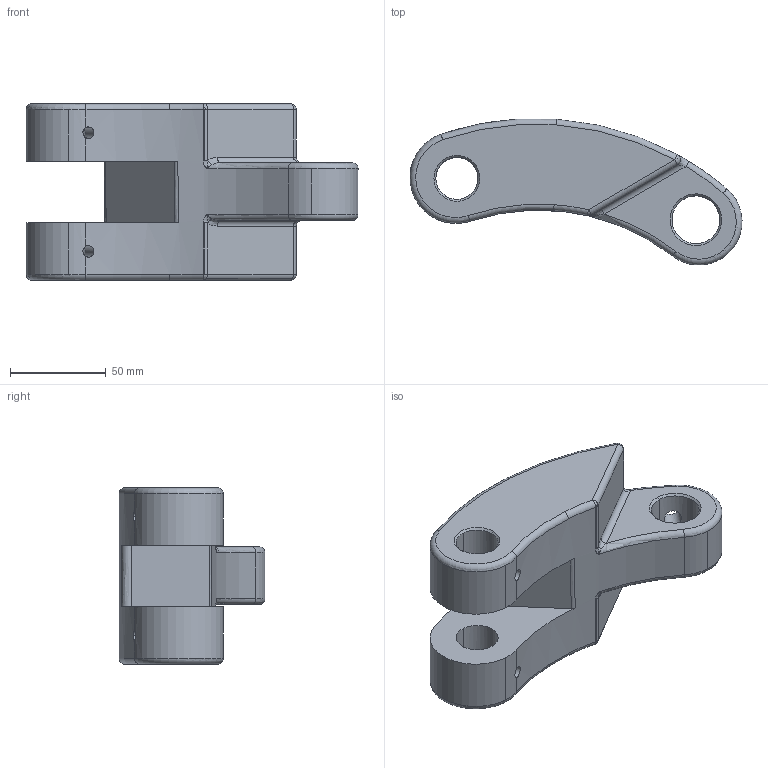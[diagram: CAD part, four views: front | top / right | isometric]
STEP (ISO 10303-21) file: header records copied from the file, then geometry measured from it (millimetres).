
FILE_DESCRIPTION (( 'STEP AP203' ), '1' );
FILE_NAME ('YYDK-500-0030 中间曲柄（500T）.STEP', '2026-03-14T08:00:59', ( 'Windows 用户' ), ( '' ), 'SwSTEP 2.0', 'SolidWorks 2020', '' );
FILE_SCHEMA (( 'CONFIG_CONTROL_DESIGN' ));
Length unit declared in the file: millimetre
Products named in the file (1): YYDK-500-0030 中间曲柄（500T）
Bounding box: 173.38 x 76.06 x 92 mm (x, y, z)
Volume: 463678.1 mm3; surface area: 54319.1 mm2
Topology: 1 solids, 1 shells, 92 faces, 242 edges, 149 vertices
Faces by surface type: cylinder 41, torus 16, plane 12, bspline 10, cone 8, sphere 5
Entity records: 4131 total; most frequent: CARTESIAN_POINT 1815, ORIENTED_EDGE 480, DIRECTION 475, EDGE_CURVE 240, AXIS2_PLACEMENT_3D 205, VERTEX_POINT 148, CIRCLE 122, EDGE_LOOP 106
